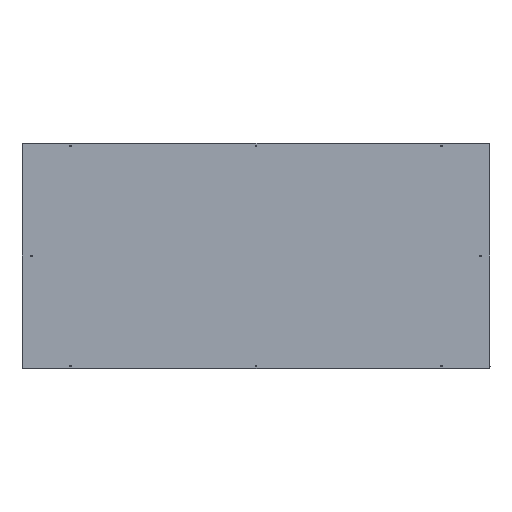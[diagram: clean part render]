
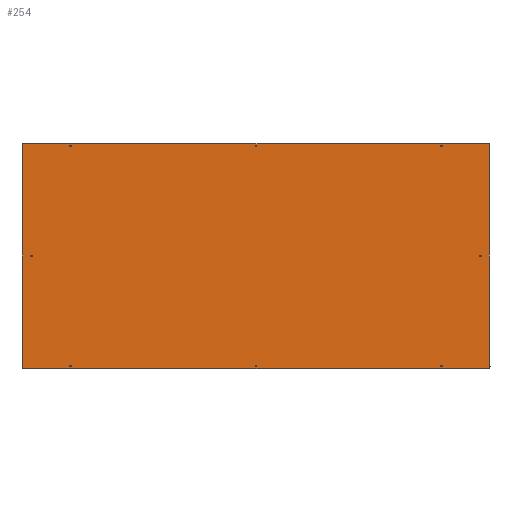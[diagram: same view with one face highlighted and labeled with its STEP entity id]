
A CAD part, left-side view. The second image highlights one B-rep face of the part: STEP entity #254.
In plain terms, the highlighted planar face has unit normal (-1, 0, 0).
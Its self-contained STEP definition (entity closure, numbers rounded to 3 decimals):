
#254=ADVANCED_FACE('',(#1435,#1437,#1439,#1441,#1443,#1445,#1447,#1449,#1451),#1453,
.F.);
#1435=FACE_BOUND('',#1436,.T.);
#1436=EDGE_LOOP('',(#2716,#2717,#2718,#2719));
#1437=FACE_BOUND('',#1438,.T.);
#1438=EDGE_LOOP('',(#2720));
#1439=FACE_BOUND('',#1440,.T.);
#1440=EDGE_LOOP('',(#2721));
#1441=FACE_BOUND('',#1442,.T.);
#1442=EDGE_LOOP('',(#2722));
#1443=FACE_BOUND('',#1444,.T.);
#1444=EDGE_LOOP('',(#2723));
#1445=FACE_BOUND('',#1446,.T.);
#1446=EDGE_LOOP('',(#2724));
#1447=FACE_BOUND('',#1448,.T.);
#1448=EDGE_LOOP('',(#2725));
#1449=FACE_BOUND('',#1450,.T.);
#1450=EDGE_LOOP('',(#2726));
#1451=FACE_BOUND('',#1452,.T.);
#1452=EDGE_LOOP('',(#2727));
#1453=PLANE('',#1454);
#1454=AXIS2_PLACEMENT_3D('',#1455,#1456,#1457);
#1455=CARTESIAN_POINT('',(0.,0.,0.));
#1456=DIRECTION('',(1.,0.,0.));
#1457=DIRECTION('',(0.,0.,-1.));
#2716=ORIENTED_EDGE('',*,*,#3271,.T.);
#2717=ORIENTED_EDGE('',*,*,#3272,.T.);
#2718=ORIENTED_EDGE('',*,*,#3273,.T.);
#2719=ORIENTED_EDGE('',*,*,#3274,.T.);
#2720=ORIENTED_EDGE('',*,*,#3246,.F.);
#2721=ORIENTED_EDGE('',*,*,#3248,.F.);
#2722=ORIENTED_EDGE('',*,*,#3250,.F.);
#2723=ORIENTED_EDGE('',*,*,#3252,.F.);
#2724=ORIENTED_EDGE('',*,*,#3254,.F.);
#2725=ORIENTED_EDGE('',*,*,#3256,.F.);
#2726=ORIENTED_EDGE('',*,*,#3258,.F.);
#2727=ORIENTED_EDGE('',*,*,#3260,.F.);
#3246=EDGE_CURVE('',#3563,#3563,#3564,.T.);
#3248=EDGE_CURVE('',#3567,#3567,#3568,.T.);
#3250=EDGE_CURVE('',#3571,#3571,#3572,.T.);
#3252=EDGE_CURVE('',#3575,#3575,#3576,.T.);
#3254=EDGE_CURVE('',#3579,#3579,#3580,.T.);
#3256=EDGE_CURVE('',#3583,#3583,#3584,.T.);
#3258=EDGE_CURVE('',#3587,#3587,#3588,.T.);
#3260=EDGE_CURVE('',#3591,#3591,#3592,.T.);
#3271=EDGE_CURVE('',#3607,#3608,#3609,.T.);
#3272=EDGE_CURVE('',#3608,#3610,#3611,.T.);
#3273=EDGE_CURVE('',#3610,#3612,#3613,.T.);
#3274=EDGE_CURVE('',#3612,#3607,#3614,.T.);
#3563=VERTEX_POINT('',#4126);
#3564=CIRCLE('',#4127,3.55);
#3567=VERTEX_POINT('',#4136);
#3568=CIRCLE('',#4137,3.55);
#3571=VERTEX_POINT('',#4146);
#3572=CIRCLE('',#4147,3.55);
#3575=VERTEX_POINT('',#4156);
#3576=CIRCLE('',#4157,3.55);
#3579=VERTEX_POINT('',#4166);
#3580=CIRCLE('',#4167,3.55);
#3583=VERTEX_POINT('',#4176);
#3584=CIRCLE('',#4177,3.55);
#3587=VERTEX_POINT('',#4186);
#3588=CIRCLE('',#4187,3.55);
#3591=VERTEX_POINT('',#4196);
#3592=CIRCLE('',#4197,3.55);
#3607=VERTEX_POINT('',#4235);
#3608=VERTEX_POINT('',#4236);
#3609=LINE('',#4237,#4238);
#3610=VERTEX_POINT('',#4240);
#3611=LINE('',#4241,#4242);
#3612=VERTEX_POINT('',#4244);
#3613=LINE('',#4245,#4246);
#3614=LINE('',#4248,#4249);
#4126=CARTESIAN_POINT('',(0.,-788.5,470.55));
#4127=AXIS2_PLACEMENT_3D('',#4128,#4129,#4130);
#4128=CARTESIAN_POINT('',(0.,-788.5,467.));
#4129=DIRECTION('',(-1.,0.,0.));
#4130=DIRECTION('',(0.,0.,-1.));
#4136=CARTESIAN_POINT('',(0.,-788.5,-463.45));
#4137=AXIS2_PLACEMENT_3D('',#4138,#4139,#4140);
#4138=CARTESIAN_POINT('',(0.,-788.5,-467.));
#4139=DIRECTION('',(-1.,0.,0.));
#4140=DIRECTION('',(0.,0.,-1.));
#4146=CARTESIAN_POINT('',(0.,-953.,3.55));
#4147=AXIS2_PLACEMENT_3D('',#4148,#4149,#4150);
#4148=CARTESIAN_POINT('',(0.,-953.,0.));
#4149=DIRECTION('',(-1.,0.,0.));
#4150=DIRECTION('',(0.,0.,-1.));
#4156=CARTESIAN_POINT('',(0.,788.5,470.55));
#4157=AXIS2_PLACEMENT_3D('',#4158,#4159,#4160);
#4158=CARTESIAN_POINT('',(0.,788.5,467.));
#4159=DIRECTION('',(-1.,0.,0.));
#4160=DIRECTION('',(0.,0.,-1.));
#4166=CARTESIAN_POINT('',(0.,0.,-463.45));
#4167=AXIS2_PLACEMENT_3D('',#4168,#4169,#4170);
#4168=CARTESIAN_POINT('',(0.,0.,-467.));
#4169=DIRECTION('',(-1.,0.,0.));
#4170=DIRECTION('',(0.,0.,-1.));
#4176=CARTESIAN_POINT('',(0.,0.,470.55));
#4177=AXIS2_PLACEMENT_3D('',#4178,#4179,#4180);
#4178=CARTESIAN_POINT('',(0.,0.,467.));
#4179=DIRECTION('',(-1.,0.,0.));
#4180=DIRECTION('',(0.,0.,-1.));
#4186=CARTESIAN_POINT('',(0.,953.,3.55));
#4187=AXIS2_PLACEMENT_3D('',#4188,#4189,#4190);
#4188=CARTESIAN_POINT('',(0.,953.,0.));
#4189=DIRECTION('',(-1.,0.,0.));
#4190=DIRECTION('',(0.,0.,-1.));
#4196=CARTESIAN_POINT('',(0.,788.5,-463.45));
#4197=AXIS2_PLACEMENT_3D('',#4198,#4199,#4200);
#4198=CARTESIAN_POINT('',(0.,788.5,-467.));
#4199=DIRECTION('',(-1.,0.,0.));
#4200=DIRECTION('',(0.,0.,-1.));
#4235=CARTESIAN_POINT('',(0.,989.8,-475.3));
#4236=CARTESIAN_POINT('',(0.,-989.8,-475.3));
#4237=CARTESIAN_POINT('',(0.,989.8,-475.3));
#4238=VECTOR('',#4239,1.);
#4239=DIRECTION('',(0.,-1.,0.));
#4240=CARTESIAN_POINT('',(0.,-989.8,475.3));
#4241=CARTESIAN_POINT('',(0.,-989.8,-475.3));
#4242=VECTOR('',#4243,1.);
#4243=DIRECTION('',(0.,0.,1.));
#4244=CARTESIAN_POINT('',(0.,989.8,475.3));
#4245=CARTESIAN_POINT('',(0.,-989.8,475.3));
#4246=VECTOR('',#4247,1.);
#4247=DIRECTION('',(0.,1.,0.));
#4248=CARTESIAN_POINT('',(0.,989.8,475.3));
#4249=VECTOR('',#4250,1.);
#4250=DIRECTION('',(0.,0.,-1.));
